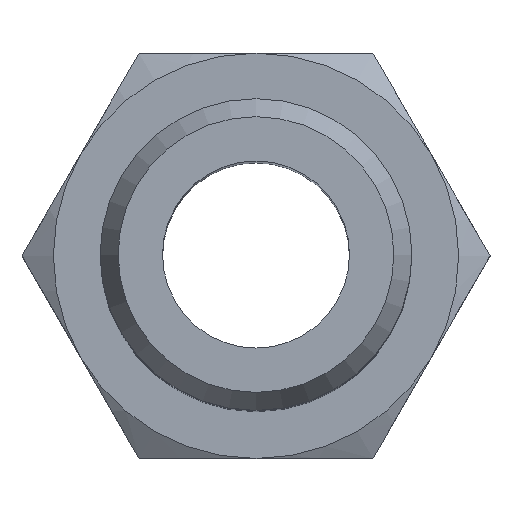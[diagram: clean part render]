
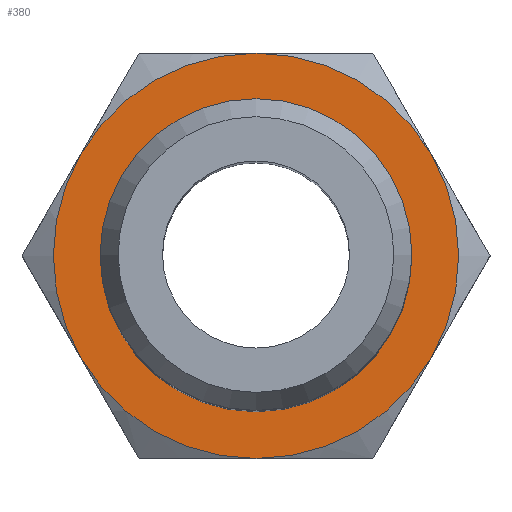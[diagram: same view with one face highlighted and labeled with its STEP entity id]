
A CAD part, top view. The second image highlights one B-rep face of the part: STEP entity #380.
In plain terms, the highlighted planar face has unit normal (0, 0, 1).
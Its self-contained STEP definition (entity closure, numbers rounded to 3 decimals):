
#380=ADVANCED_FACE('', (#390,#400), #410, .T.);
#1940=AXIS2_PLACEMENT_3D('Ax2Pl3d', #1950, #1960, #1970);
#2300=AXIS2_PLACEMENT_3D('Ax2Pl3d', #2310, #2320, #2330);
#2340=AXIS2_PLACEMENT_3D('Ax2Pl3d', #2350, #2360, #2370);
#2380=AXIS2_PLACEMENT_3D('Ax2Pl3d', #2390, #2400, #2410);
#2420=AXIS2_PLACEMENT_3D('Ax2Pl3d', #2430, #2440, #2450);
#2460=AXIS2_PLACEMENT_3D('Ax2Pl3d', #2470, #2480, #2490);
#2500=AXIS2_PLACEMENT_3D('Ax2Pl3d', #2510, #2520, #2530);
#2540=AXIS2_PLACEMENT_3D('Ax2Pl3d', #2550, #2560, #2570);
#1950=CARTESIAN_POINT('HicPkt', (11.043,11.541,
13.598));
#6310=CARTESIAN_POINT('', (16.672,8.291,13.598));
#6320=CARTESIAN_POINT('', (11.043,5.041,13.598));
#6430=CARTESIAN_POINT('', (5.414,14.791,13.598));
#6500=CARTESIAN_POINT('', (11.043,18.041,13.598));
#6570=CARTESIAN_POINT('', (16.672,14.791,13.598));
#6690=CARTESIAN_POINT('', (5.414,8.291,13.598));
#2310=CARTESIAN_POINT('HicPkt', (17.543,11.541,
13.598));
#2350=CARTESIAN_POINT('HicPkt', (11.043,11.541,
13.598));
#2390=CARTESIAN_POINT('HicPkt', (11.043,11.541,
13.598));
#2430=CARTESIAN_POINT('HicPkt', (11.043,11.541,
13.598));
#2470=CARTESIAN_POINT('HicPkt', (11.043,11.541,
13.598));
#2510=CARTESIAN_POINT('HicPkt', (11.043,11.541,
13.598));
#2550=CARTESIAN_POINT('HicPkt', (11.043,11.541,
13.598));
#6730=CARTESIAN_POINT('', (11.043,16.541,13.598));
#7010=CIRCLE('Circle', #1940, 6.5);
#7030=CIRCLE('Circle', #2340, 6.5);
#7040=CIRCLE('Circle', #2380, 6.5);
#7050=CIRCLE('Circle', #2420, 6.5);
#7060=CIRCLE('Circle', #2460, 6.5);
#7070=CIRCLE('Circle', #2500, 6.5);
#7080=CIRCLE('Circle', #2540, 5.);
#1960=DIRECTION('Axis', (0.,0.,-1.));
#1970=DIRECTION('RefDirection', (-1.,-0.,0.));
#2320=DIRECTION('Axis', (0.,0.,1.));
#2330=DIRECTION('RefDirection', (1.,0.,-0.));
#2360=DIRECTION('Axis', (0.,0.,-1.));
#2370=DIRECTION('RefDirection', (-1.,-0.,0.));
#2400=DIRECTION('Axis', (0.,0.,-1.));
#2410=DIRECTION('RefDirection', (-1.,-0.,0.));
#2440=DIRECTION('Axis', (0.,0.,-1.));
#2450=DIRECTION('RefDirection', (-1.,-0.,0.));
#2480=DIRECTION('Axis', (0.,0.,-1.));
#2490=DIRECTION('RefDirection', (-1.,-0.,0.));
#2520=DIRECTION('Axis', (0.,0.,-1.));
#2530=DIRECTION('RefDirection', (-1.,-0.,0.));
#2560=DIRECTION('Axis', (0.,0.,1.));
#2570=DIRECTION('RefDirection', (1.,0.,-0.));
#9790=EDGE_CURVE('', #9800, #9810, #7010, .T.);
#10530=EDGE_CURVE('', #10230, #9800, #7030, .T.);
#10540=EDGE_CURVE('', #10110, #10230, #7040, .T.);
#10550=EDGE_CURVE('', #9990, #10110, #7050, .T.);
#10560=EDGE_CURVE('', #10450, #9990, #7060, .T.);
#10570=EDGE_CURVE('', #9810, #10450, #7070, .T.);
#10580=EDGE_CURVE('', #10590, #10590, #7080, .T.);
#11730=EDGE_LOOP('Edge_loop', (#11740,#11750,#11760,#11770,#11780,
#11790));
#11800=EDGE_LOOP('Edge_loop', (#11810));
#400=FACE_BOUND('', #11800, .T.);
#390=FACE_OUTER_BOUND('Face_outer_bound', #11730, .T.);
#11740=ORIENTED_EDGE('', *, *, #9790, .F.);
#11750=ORIENTED_EDGE('', *, *, #10530, .F.);
#11760=ORIENTED_EDGE('', *, *, #10540, .F.);
#11770=ORIENTED_EDGE('', *, *, #10550, .F.);
#11780=ORIENTED_EDGE('', *, *, #10560, .F.);
#11790=ORIENTED_EDGE('', *, *, #10570, .F.);
#11810=ORIENTED_EDGE('', *, *, #10580, .F.);
#410=PLANE('Plane', #2300);
#9800=VERTEX_POINT('', #6310);
#9810=VERTEX_POINT('', #6320);
#9990=VERTEX_POINT('', #6430);
#10110=VERTEX_POINT('', #6500);
#10230=VERTEX_POINT('', #6570);
#10450=VERTEX_POINT('', #6690);
#10590=VERTEX_POINT('', #6730);
